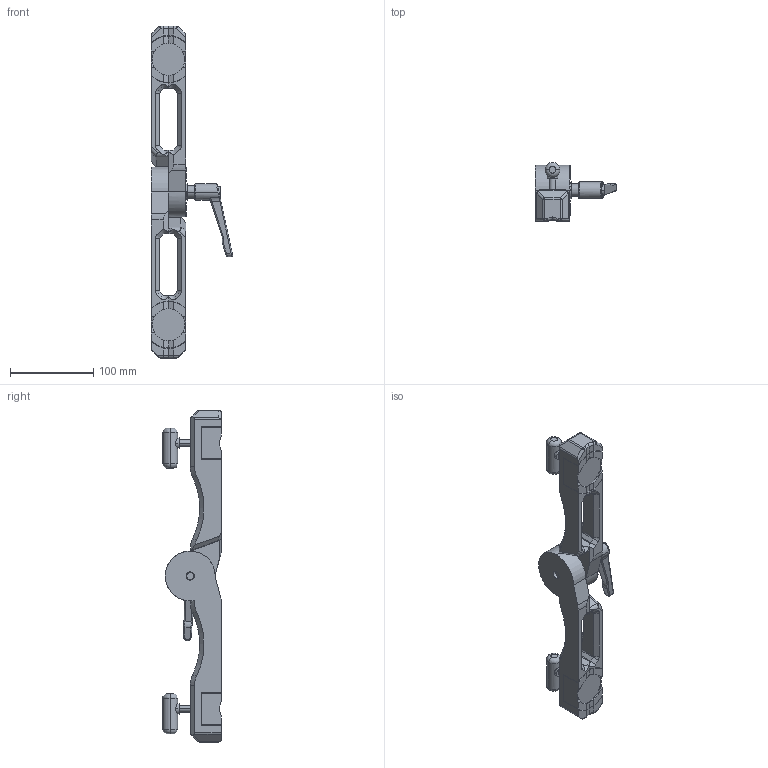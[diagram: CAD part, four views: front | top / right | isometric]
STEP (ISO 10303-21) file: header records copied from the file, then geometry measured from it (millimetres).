
FILE_DESCRIPTION (( 'STEP AP203' ), '1' );
FILE_NAME ('8000367_p.STEP', '2013-07-02T22:13:57', ( '' ), ( '' ), 'SwSTEP 2.0', 'SolidWorks 2010', '' );
FILE_SCHEMA (( 'CONFIG_CONTROL_DESIGN' ));
Length unit declared in the file: millimetre
Products named in the file (1): 8000367_p
Bounding box: 97.93 x 70.75 x 400 mm (x, y, z)
Surface area: 94194.5 mm2 (no closed solid volume)
Topology: 0 solids, 26 shells, 644 faces, 2077 edges, 1376 vertices
Faces by surface type: plane 323, cylinder 123, bspline 110, cone 72, torus 10, sphere 6
Entity records: 34178 total; most frequent: CARTESIAN_POINT 17381, ORIENTED_EDGE 3449, DIRECTION 3051, EDGE_CURVE 2073, VERTEX_POINT 1376, LINE 1085, VECTOR 1085, AXIS2_PLACEMENT_3D 983
